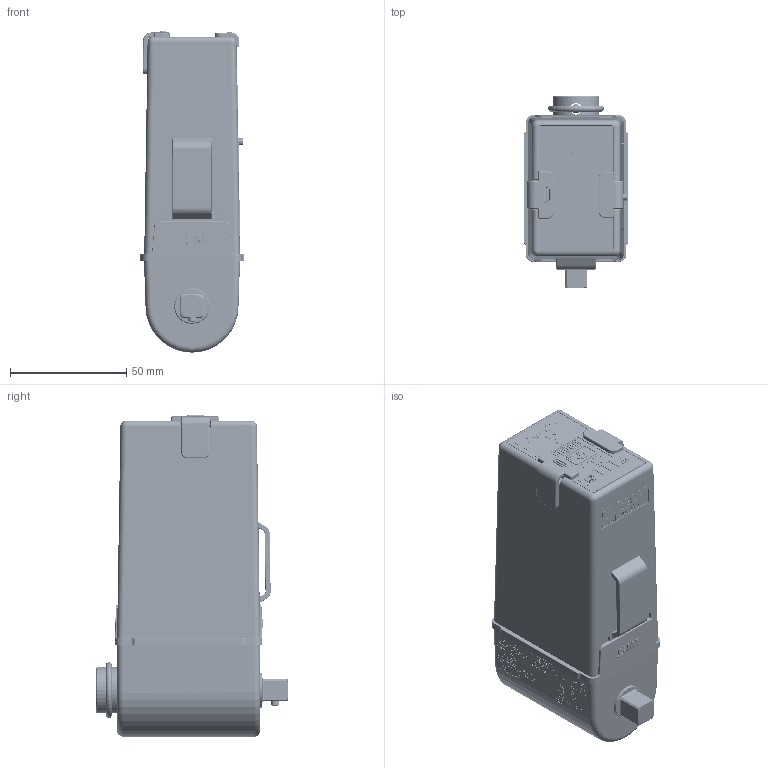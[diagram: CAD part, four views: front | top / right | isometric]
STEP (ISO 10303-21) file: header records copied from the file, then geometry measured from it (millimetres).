
FILE_DESCRIPTION((''),'2;1');
FILE_NAME('6152210550_DIM','2024-03-01T15:14:18',('S00000450'),(''),'CREO PARAMETRIC BY PTC INC, 2023254','CREO PARAMETRIC BY PTC INC, 2023254','');
FILE_SCHEMA(('AP242_MANAGED_MODEL_BASED_3D_ENGINEERING_MIM_LF { 1 0 10303 442 1 1 4 }'));
Products named in the file (1): 6152210550_DIM
Bounding box: 45 x 82.6 x 138.33 mm (x, y, z)
Volume: 118424.5 mm3; surface area: 93727.9 mm2
Topology: 5 solids, 5 shells, 8989 faces, 24575 edges, 16115 vertices
Faces by surface type: plane 4238, extrusion 3259, cylinder 826, cone 320, torus 195, bspline 135, sphere 16
Entity records: 368815 total; most frequent: CARTESIAN_POINT 99250, ORIENTED_EDGE 49010, DIRECTION 33921, EDGE_CURVE 24505, VECTOR 18293, VERTEX_POINT 16115, LINE 15034, B_SPLINE_CURVE_WITH_KNOTS 10511
